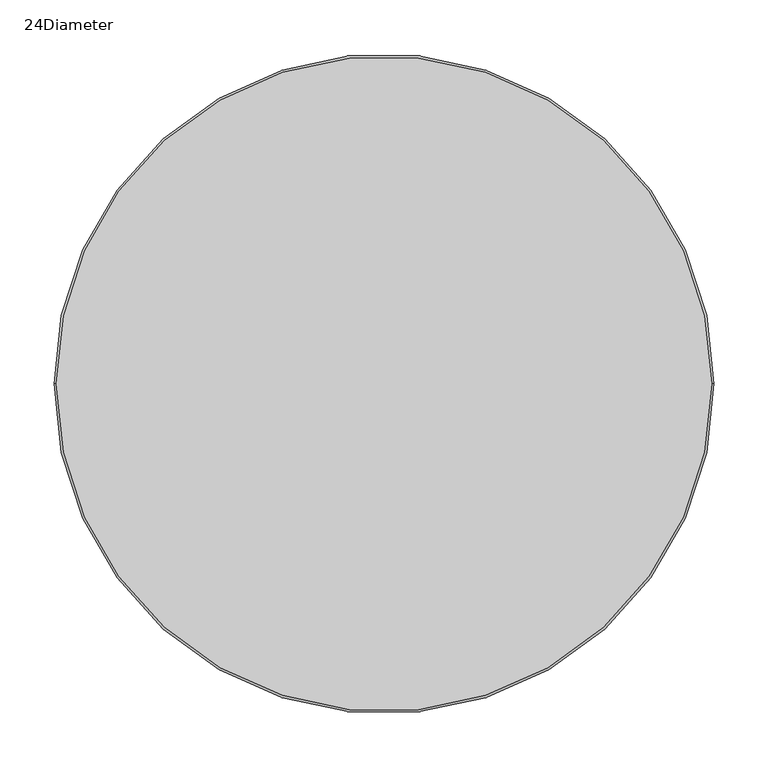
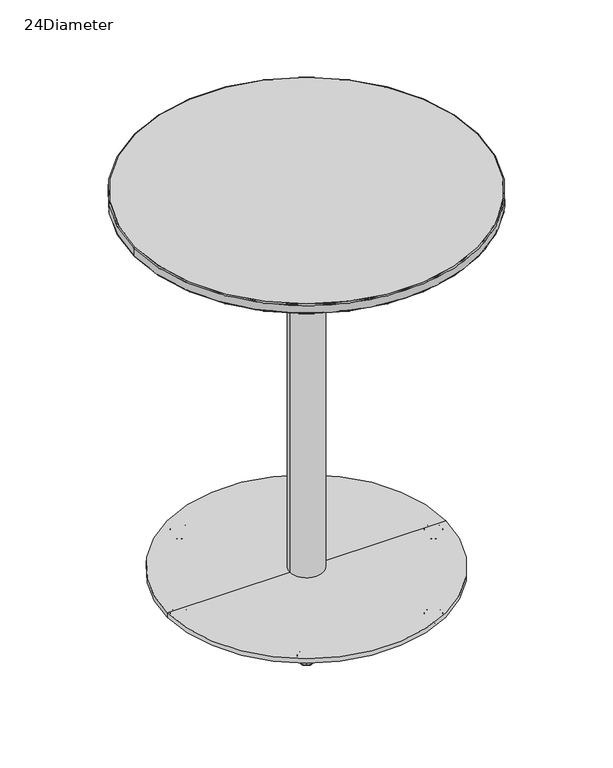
"""IFC4 building model written with IfcOpenShell, lengths in millimetres: furniture geometry, Coalesse_AM_Table_Conference_Montara650_WorkHeight_Round : 24Diameter."""

from ifc_helpers import new_model, si_unit, point, frame, origin, origin_with_axes, origin_2d, place, context, project, spatial, polyline, circle_curve, ellipse_curve, trimmed, segment, composite_curve, outline, extrude, source, transform, mapped, element, save
from ifc_brep_helpers import plane_surface, cylinder_surface, revolved_surface, advanced_brep


def furniture_24diameter_648c9b66(model_context):
    return source(origin(), model_context, "Body", "SolidModel", [
        advanced_brep(
        [(-112.4946772, 194.8464965, 0.0), (-117.6867095, 203.8393602, 0.0), (-107.302645, 185.8536329, 0.0), (-118.0731448, 204.5086859, 0.5718943), (-106.9162096, 185.1843072, 0.5718943), (-119.6988534, 207.3244957, 11.2068005), (-105.290501, 182.3684973, 11.2068005), (-119.4053894, 206.8162011, 11.9999882), (-105.5839651, 182.8767919, 11.9999882), (-112.4946772, 194.8464965, 11.9999882)],
        [
            (0, 1),
            (1, 2, circle_curve(frame((-112.4946772, 194.8464965, 0.0), z_axis=(0.0, 0.0, -1.0), x_axis=(-0.5000000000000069, 0.8660254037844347, 0.0)), 10.3840645)),
            (2, 0),
            (2, 1, circle_curve(frame((-112.4946772, 194.8464965, 0.0), z_axis=(0.0, 0.0, -1.0), x_axis=(-0.5000000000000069, 0.8660254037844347, 0.0)), 10.3840645)),
            (1, 3, circle_curve(frame((-117.6867095, 203.8393602, 0.8081846), z_axis=(0.8660254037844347, 0.5000000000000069, 0.0), x_axis=(-0.5000000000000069, 0.8660254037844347, 0.0)), 0.8081846)),
            (3, 4, circle_curve(frame((-112.4946772, 194.8464965, 0.5718943), z_axis=(0.0, 0.0, -1.0), x_axis=(-0.5000000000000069, 0.8660254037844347, 0.0)), 11.1569353)),
            (4, 2, circle_curve(frame((-107.302645, 185.8536329, 0.8081846), z_axis=(0.866025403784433, 0.5000000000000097, 0.0), x_axis=(0.5000000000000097, -0.866025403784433, 0.0)), 0.8081846)),
            (4, 3, circle_curve(frame((-112.4946772, 194.8464965, 0.5718943), z_axis=(0.0, 0.0, -1.0), x_axis=(-0.5000000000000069, 0.8660254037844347, 0.0)), 11.1569353)),
            (3, 5),
            (5, 6, circle_curve(frame((-112.4946772, 194.8464965, 11.2068005), z_axis=(0.0, 0.0, -1.0), x_axis=(-0.5000000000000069, 0.8660254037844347, 0.0)), 14.4083524)),
            (6, 4),
            (6, 5, circle_curve(frame((-112.4946772, 194.8464965, 11.2068005), z_axis=(0.0, 0.0, -1.0), x_axis=(-0.5000000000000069, 0.8660254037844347, 0.0)), 14.4083524)),
            (5, 7, circle_curve(frame((-119.4053894, 206.8162011, 11.3862424), z_axis=(0.8660254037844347, 0.5000000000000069, 0.0), x_axis=(-0.5000000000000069, 0.8660254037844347, 0.0)), 0.6137458)),
            (7, 8, circle_curve(frame((-112.4946772, 194.8464965, 11.9999882), z_axis=(0.0, 0.0, -1.0), x_axis=(-0.5000000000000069, 0.8660254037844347, 0.0)), 13.8214243)),
            (8, 6, circle_curve(frame((-105.5839651, 182.8767919, 11.3862424), z_axis=(0.866025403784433, 0.5000000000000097, 0.0), x_axis=(0.5000000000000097, -0.866025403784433, 0.0)), 0.6137458)),
            (8, 7, circle_curve(frame((-112.4946772, 194.8464965, 11.9999882), z_axis=(0.0, 0.0, -1.0), x_axis=(-0.5000000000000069, 0.8660254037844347, 0.0)), 13.8214243)),
            (7, 9),
            (9, 8),
        ],
        [
            plane_surface(frame((-112.4946772, 194.8464965, 0.0), z_axis=(0.0, 0.0, -1.0), x_axis=(-0.5000000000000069, 0.8660254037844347, 0.0))),
            revolved_surface(trimmed(ellipse_curve(frame((-117.6867095, 203.8393602, 0.8081846), z_axis=(-0.8660254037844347, -0.5000000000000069, 0.0), x_axis=(-0.5000000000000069, 0.8660254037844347, 0.0)), 0.8081846, 0.8081846), [point((-118.0731448, 204.5086859, 0.5718943))], [point((-117.6867095, 203.8393602, 0.0))], True, "CARTESIAN"), (-112.4946772, 194.8464965, 12.2086845), (0.0, 0.0, -1.0)),
            revolved_surface(polyline([(-119.6988534, 207.3244957, 11.2068005), (-118.0731448, 204.5086859, 0.5718943)]), (-112.4946772, 194.8464965, 12.2086845), (0.0, 0.0, -1.0)),
            revolved_surface(trimmed(ellipse_curve(frame((-119.4053894, 206.8162011, 11.3862424), z_axis=(-0.8660254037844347, -0.5000000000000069, 0.0), x_axis=(-0.5000000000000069, 0.8660254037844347, 0.0)), 0.6137458, 0.6137458), [point((-119.4053894, 206.8162011, 11.9999882))], [point((-119.6988534, 207.3244957, 11.2068005))], True, "CARTESIAN"), (-112.4946772, 194.8464965, 12.2086845), (0.0, 0.0, -1.0)),
            plane_surface(frame((-112.4946772, 194.8464965, 11.9999882), z_axis=(0.0, 0.0, 1.0), x_axis=(-0.5000000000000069, 0.8660254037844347, 0.0))),
        ],
        [
            (0, [[1, 2, 3]]),
            (0, [[-3, 4, -1]]),
            (1, [[-2, 5, 6, 7]]),
            (1, [[-4, -7, 8, -5]]),
            (2, [[-6, 9, 10, 11]]),
            (2, [[-8, -11, 12, -9]]),
            (3, [[-10, 13, 14, 15]]),
            (3, [[-12, -15, 16, -13]]),
            (4, [[-14, 17, 18]]),
            (4, [[-16, -18, -17]]),
        ],
    ),
        advanced_brep(
        [(107.302645, -185.8536329, 0.0), (117.6867095, -203.8393602, 0.0), (112.4946772, -194.8464965, 0.0), (106.9162096, -185.1843072, 0.5718943), (118.0731448, -204.5086859, 0.5718943), (105.290501, -182.3684973, 11.2068005), (119.6988534, -207.3244957, 11.2068005), (105.5839651, -182.8767919, 11.9999882), (119.4053894, -206.8162011, 11.9999882), (112.4946772, -194.8464965, 11.9999882)],
        [
            (0, 1, circle_curve(frame((112.4946772, -194.8464965, 0.0), z_axis=(0.0, 0.0, -1.0), x_axis=(0.5000000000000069, -0.8660254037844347, 0.0)), 10.3840645)),
            (1, 2),
            (2, 0),
            (1, 0, circle_curve(frame((112.4946772, -194.8464965, 0.0), z_axis=(0.0, 0.0, -1.0), x_axis=(0.5000000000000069, -0.8660254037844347, 0.0)), 10.3840645)),
            (3, 4, circle_curve(frame((112.4946772, -194.8464965, 0.5718943), z_axis=(0.0, 0.0, -1.0), x_axis=(0.5000000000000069, -0.8660254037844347, 0.0)), 11.1569353)),
            (4, 1, circle_curve(frame((117.6867095, -203.8393602, 0.8081846), z_axis=(0.8660254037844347, 0.5000000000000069, 0.0), x_axis=(0.5000000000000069, -0.8660254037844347, 0.0)), 0.8081846)),
            (0, 3, circle_curve(frame((107.302645, -185.8536329, 0.8081846), z_axis=(0.8660254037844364, 0.5000000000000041, 0.0), x_axis=(-0.5000000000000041, 0.8660254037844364, 0.0)), 0.8081846)),
            (4, 3, circle_curve(frame((112.4946772, -194.8464965, 0.5718943), z_axis=(0.0, 0.0, -1.0), x_axis=(0.5000000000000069, -0.8660254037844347, 0.0)), 11.1569353)),
            (5, 6, circle_curve(frame((112.4946772, -194.8464965, 11.2068005), z_axis=(0.0, 0.0, -1.0), x_axis=(0.5000000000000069, -0.8660254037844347, 0.0)), 14.4083524)),
            (6, 4),
            (3, 5),
            (6, 5, circle_curve(frame((112.4946772, -194.8464965, 11.2068005), z_axis=(0.0, 0.0, -1.0), x_axis=(0.5000000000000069, -0.8660254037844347, 0.0)), 14.4083524)),
            (7, 8, circle_curve(frame((112.4946772, -194.8464965, 11.9999882), z_axis=(0.0, 0.0, -1.0), x_axis=(0.5000000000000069, -0.8660254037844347, 0.0)), 13.8214243)),
            (8, 6, circle_curve(frame((119.4053894, -206.8162011, 11.3862424), z_axis=(0.8660254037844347, 0.5000000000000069, 0.0), x_axis=(0.5000000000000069, -0.8660254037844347, 0.0)), 0.6137458)),
            (5, 7, circle_curve(frame((105.5839651, -182.8767919, 11.3862424), z_axis=(0.8660254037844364, 0.5000000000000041, 0.0), x_axis=(-0.5000000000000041, 0.8660254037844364, 0.0)), 0.6137458)),
            (8, 7, circle_curve(frame((112.4946772, -194.8464965, 11.9999882), z_axis=(0.0, 0.0, -1.0), x_axis=(0.5000000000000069, -0.8660254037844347, 0.0)), 13.8214243)),
            (9, 8),
            (7, 9),
        ],
        [
            plane_surface(frame((112.4946772, -194.8464965, 0.0), z_axis=(0.0, 0.0, -1.0), x_axis=(0.5000000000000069, -0.8660254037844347, 0.0))),
            revolved_surface(trimmed(ellipse_curve(frame((117.6867095, -203.8393602, 0.8081846), z_axis=(-0.8660254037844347, -0.5000000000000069, 0.0), x_axis=(0.5000000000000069, -0.8660254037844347, 0.0)), 0.8081846, 0.8081846), [point((117.6867095, -203.8393602, 0.0))], [point((118.0731448, -204.5086859, 0.5718943))], True, "CARTESIAN"), (112.4946772, -194.8464965, 12.2086845), (0.0, 0.0, 1.0)),
            revolved_surface(polyline([(118.0731448, -204.5086859, 0.5718943), (119.6988534, -207.3244957, 11.2068005)]), (112.4946772, -194.8464965, 12.2086845), (0.0, 0.0, 1.0)),
            revolved_surface(trimmed(ellipse_curve(frame((119.4053894, -206.8162011, 11.3862424), z_axis=(-0.8660254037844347, -0.5000000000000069, 0.0), x_axis=(0.5000000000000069, -0.8660254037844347, 0.0)), 0.6137458, 0.6137458), [point((119.6988534, -207.3244957, 11.2068005))], [point((119.4053894, -206.8162011, 11.9999882))], True, "CARTESIAN"), (112.4946772, -194.8464965, 12.2086845), (0.0, 0.0, 1.0)),
            plane_surface(frame((112.4946772, -194.8464965, 11.9999882), z_axis=(0.0, 0.0, 1.0), x_axis=(0.5000000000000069, -0.8660254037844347, 0.0))),
        ],
        [
            (0, [[1, 2, 3]]),
            (0, [[4, -3, -2]]),
            (1, [[5, 6, -1, 7]]),
            (1, [[8, -7, -4, -6]]),
            (2, [[9, 10, -5, 11]]),
            (2, [[12, -11, -8, -10]]),
            (3, [[13, 14, -9, 15]]),
            (3, [[16, -15, -12, -14]]),
            (4, [[17, -13, 18]]),
            (4, [[-18, -16, -17]]),
        ],
    ),
        advanced_brep(
        [(107.302645, 185.8536329, 0.0), (117.6867095, 203.8393602, 0.0), (112.4946772, 194.8464965, 0.0), (106.9162096, 185.1843072, 0.5718943), (118.0731448, 204.5086859, 0.5718943), (105.290501, 182.3684973, 11.2068005), (119.6988534, 207.3244957, 11.2068005), (105.5839651, 182.8767919, 11.9999882), (119.4053894, 206.8162011, 11.9999882), (112.4946772, 194.8464965, 11.9999882)],
        [
            (0, 1, circle_curve(frame((112.4946772, 194.8464965, 0.0), z_axis=(0.0, 0.0, -1.0), x_axis=(0.5000000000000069, 0.8660254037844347, 0.0)), 10.3840645)),
            (1, 2),
            (2, 0),
            (1, 0, circle_curve(frame((112.4946772, 194.8464965, 0.0), z_axis=(0.0, 0.0, -1.0), x_axis=(0.5000000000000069, 0.8660254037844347, 0.0)), 10.3840645)),
            (3, 4, circle_curve(frame((112.4946772, 194.8464965, 0.5718943), z_axis=(0.0, 0.0, -1.0), x_axis=(0.5000000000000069, 0.8660254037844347, 0.0)), 11.1569353)),
            (4, 1, circle_curve(frame((117.6867095, 203.8393602, 0.8081846), z_axis=(-0.8660254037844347, 0.5000000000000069, 0.0), x_axis=(0.5000000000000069, 0.8660254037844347, 0.0)), 0.8081846)),
            (0, 3, circle_curve(frame((107.302645, 185.8536329, 0.8081846), z_axis=(-0.866025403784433, 0.5000000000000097, 0.0), x_axis=(-0.5000000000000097, -0.866025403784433, 0.0)), 0.8081846)),
            (4, 3, circle_curve(frame((112.4946772, 194.8464965, 0.5718943), z_axis=(0.0, 0.0, -1.0), x_axis=(0.5000000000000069, 0.8660254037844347, 0.0)), 11.1569353)),
            (5, 6, circle_curve(frame((112.4946772, 194.8464965, 11.2068005), z_axis=(0.0, 0.0, -1.0), x_axis=(0.5000000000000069, 0.8660254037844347, 0.0)), 14.4083524)),
            (6, 4),
            (3, 5),
            (6, 5, circle_curve(frame((112.4946772, 194.8464965, 11.2068005), z_axis=(0.0, 0.0, -1.0), x_axis=(0.5000000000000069, 0.8660254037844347, 0.0)), 14.4083524)),
            (7, 8, circle_curve(frame((112.4946772, 194.8464965, 11.9999882), z_axis=(0.0, 0.0, -1.0), x_axis=(0.5000000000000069, 0.8660254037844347, 0.0)), 13.8214243)),
            (8, 6, circle_curve(frame((119.4053894, 206.8162011, 11.3862424), z_axis=(-0.8660254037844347, 0.5000000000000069, 0.0), x_axis=(0.5000000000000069, 0.8660254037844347, 0.0)), 0.6137458)),
            (5, 7, circle_curve(frame((105.5839651, 182.8767919, 11.3862424), z_axis=(-0.866025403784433, 0.5000000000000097, 0.0), x_axis=(-0.5000000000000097, -0.866025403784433, 0.0)), 0.6137458)),
            (8, 7, circle_curve(frame((112.4946772, 194.8464965, 11.9999882), z_axis=(0.0, 0.0, -1.0), x_axis=(0.5000000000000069, 0.8660254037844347, 0.0)), 13.8214243)),
            (9, 8),
            (7, 9),
        ],
        [
            plane_surface(frame((112.4946772, 194.8464965, 0.0), z_axis=(0.0, 0.0, -1.0), x_axis=(0.5000000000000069, 0.8660254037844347, 0.0))),
            revolved_surface(trimmed(ellipse_curve(frame((117.6867095, 203.8393602, 0.8081846), z_axis=(0.8660254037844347, -0.5000000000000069, 0.0), x_axis=(0.5000000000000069, 0.8660254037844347, 0.0)), 0.8081846, 0.8081846), [point((117.6867095, 203.8393602, 0.0))], [point((118.0731448, 204.5086859, 0.5718943))], True, "CARTESIAN"), (112.4946772, 194.8464965, 12.2086845), (0.0, 0.0, 1.0)),
            revolved_surface(polyline([(118.0731448, 204.5086859, 0.5718943), (119.6988534, 207.3244957, 11.2068005)]), (112.4946772, 194.8464965, 12.2086845), (0.0, 0.0, 1.0)),
            revolved_surface(trimmed(ellipse_curve(frame((119.4053894, 206.8162011, 11.3862424), z_axis=(0.8660254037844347, -0.5000000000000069, 0.0), x_axis=(0.5000000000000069, 0.8660254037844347, 0.0)), 0.6137458, 0.6137458), [point((119.6988534, 207.3244957, 11.2068005))], [point((119.4053894, 206.8162011, 11.9999882))], True, "CARTESIAN"), (112.4946772, 194.8464965, 12.2086845), (0.0, 0.0, 1.0)),
            plane_surface(frame((112.4946772, 194.8464965, 11.9999882), z_axis=(0.0, 0.0, 1.0), x_axis=(0.5000000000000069, 0.8660254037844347, 0.0))),
        ],
        [
            (0, [[1, 2, 3]]),
            (0, [[4, -3, -2]]),
            (1, [[5, 6, -1, 7]]),
            (1, [[8, -7, -4, -6]]),
            (2, [[9, 10, -5, 11]]),
            (2, [[12, -11, -8, -10]]),
            (3, [[13, 14, -9, 15]]),
            (3, [[16, -15, -12, -14]]),
            (4, [[17, -13, 18]]),
            (4, [[-18, -16, -17]]),
        ],
    ),
        advanced_brep(
        [(-112.4946772, -194.8464965, 0.0), (-117.6867095, -203.8393602, 0.0), (-107.302645, -185.8536329, 0.0), (-118.0731448, -204.5086859, 0.5718943), (-106.9162096, -185.1843072, 0.5718943), (-119.6988534, -207.3244957, 11.2068005), (-105.290501, -182.3684973, 11.2068005), (-119.4053894, -206.8162011, 11.9999882), (-105.5839651, -182.8767919, 11.9999882), (-112.4946772, -194.8464965, 11.9999882)],
        [
            (0, 1),
            (1, 2, circle_curve(frame((-112.4946772, -194.8464965, 0.0), z_axis=(0.0, 0.0, -1.0), x_axis=(-0.5000000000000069, -0.8660254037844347, 0.0)), 10.3840645)),
            (2, 0),
            (2, 1, circle_curve(frame((-112.4946772, -194.8464965, 0.0), z_axis=(0.0, 0.0, -1.0), x_axis=(-0.5000000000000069, -0.8660254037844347, 0.0)), 10.3840645)),
            (1, 3, circle_curve(frame((-117.6867095, -203.8393602, 0.8081846), z_axis=(-0.8660254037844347, 0.5000000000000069, 0.0), x_axis=(-0.5000000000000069, -0.8660254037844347, 0.0)), 0.8081846)),
            (3, 4, circle_curve(frame((-112.4946772, -194.8464965, 0.5718943), z_axis=(0.0, 0.0, -1.0), x_axis=(-0.5000000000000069, -0.8660254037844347, 0.0)), 11.1569353)),
            (4, 2, circle_curve(frame((-107.302645, -185.8536329, 0.8081846), z_axis=(-0.8660254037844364, 0.5000000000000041, 0.0), x_axis=(0.5000000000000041, 0.8660254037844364, 0.0)), 0.8081846)),
            (4, 3, circle_curve(frame((-112.4946772, -194.8464965, 0.5718943), z_axis=(0.0, 0.0, -1.0), x_axis=(-0.5000000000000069, -0.8660254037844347, 0.0)), 11.1569353)),
            (3, 5),
            (5, 6, circle_curve(frame((-112.4946772, -194.8464965, 11.2068005), z_axis=(0.0, 0.0, -1.0), x_axis=(-0.5000000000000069, -0.8660254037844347, 0.0)), 14.4083524)),
            (6, 4),
            (6, 5, circle_curve(frame((-112.4946772, -194.8464965, 11.2068005), z_axis=(0.0, 0.0, -1.0), x_axis=(-0.5000000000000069, -0.8660254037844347, 0.0)), 14.4083524)),
            (5, 7, circle_curve(frame((-119.4053894, -206.8162011, 11.3862424), z_axis=(-0.8660254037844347, 0.5000000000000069, 0.0), x_axis=(-0.5000000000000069, -0.8660254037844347, 0.0)), 0.6137458)),
            (7, 8, circle_curve(frame((-112.4946772, -194.8464965, 11.9999882), z_axis=(0.0, 0.0, -1.0), x_axis=(-0.5000000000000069, -0.8660254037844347, 0.0)), 13.8214243)),
            (8, 6, circle_curve(frame((-105.5839651, -182.8767919, 11.3862424), z_axis=(-0.8660254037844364, 0.5000000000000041, 0.0), x_axis=(0.5000000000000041, 0.8660254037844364, 0.0)), 0.6137458)),
            (8, 7, circle_curve(frame((-112.4946772, -194.8464965, 11.9999882), z_axis=(0.0, 0.0, -1.0), x_axis=(-0.5000000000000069, -0.8660254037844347, 0.0)), 13.8214243)),
            (7, 9),
            (9, 8),
        ],
        [
            plane_surface(frame((-112.4946772, -194.8464965, 0.0), z_axis=(0.0, 0.0, -1.0), x_axis=(-0.5000000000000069, -0.8660254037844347, 0.0))),
            revolved_surface(trimmed(ellipse_curve(frame((-117.6867095, -203.8393602, 0.8081846), z_axis=(0.8660254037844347, -0.5000000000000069, 0.0), x_axis=(-0.5000000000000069, -0.8660254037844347, 0.0)), 0.8081846, 0.8081846), [point((-118.0731448, -204.5086859, 0.5718943))], [point((-117.6867095, -203.8393602, 0.0))], True, "CARTESIAN"), (-112.4946772, -194.8464965, 12.2086845), (0.0, 0.0, -1.0)),
            revolved_surface(polyline([(-119.6988534, -207.3244957, 11.2068005), (-118.0731448, -204.5086859, 0.5718943)]), (-112.4946772, -194.8464965, 12.2086845), (0.0, 0.0, -1.0)),
            revolved_surface(trimmed(ellipse_curve(frame((-119.4053894, -206.8162011, 11.3862424), z_axis=(0.8660254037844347, -0.5000000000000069, 0.0), x_axis=(-0.5000000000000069, -0.8660254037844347, 0.0)), 0.6137458, 0.6137458), [point((-119.4053894, -206.8162011, 11.9999882))], [point((-119.6988534, -207.3244957, 11.2068005))], True, "CARTESIAN"), (-112.4946772, -194.8464965, 12.2086845), (0.0, 0.0, -1.0)),
            plane_surface(frame((-112.4946772, -194.8464965, 11.9999882), z_axis=(0.0, 0.0, 1.0), x_axis=(-0.5000000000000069, -0.8660254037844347, 0.0))),
        ],
        [
            (0, [[1, 2, 3]]),
            (0, [[-3, 4, -1]]),
            (1, [[-2, 5, 6, 7]]),
            (1, [[-4, -7, 8, -5]]),
            (2, [[-6, 9, 10, 11]]),
            (2, [[-8, -11, 12, -9]]),
            (3, [[-10, 13, 14, 15]]),
            (3, [[-12, -15, 16, -13]]),
            (4, [[-14, 17, 18]]),
            (4, [[-16, -18, -17]]),
        ],
    ),
        advanced_brep(
        [(214.6052899, 0.0, 0.0), (235.3734189, 0.0, 0.0), (224.9893544, 0.0, 0.0), (213.8324192, 0.0, 0.5718943), (236.1462897, 0.0, 0.5718943), (210.5810021, 0.0, 11.2068005), (239.3977068, 0.0, 11.2068005), (211.1679301, 0.0, 11.9999882), (238.8107788, 0.0, 11.9999882), (224.9893544, 0.0, 11.9999882)],
        [
            (0, 1, circle_curve(frame((224.9893544, 0.0, 0.0), z_axis=(0.0, 0.0, -1.0), x_axis=(1.0, 0.0, 0.0)), 10.3840645)),
            (1, 2),
            (2, 0),
            (1, 0, circle_curve(frame((224.9893544, 0.0, 0.0), z_axis=(0.0, 0.0, -1.0), x_axis=(1.0, 0.0, 0.0)), 10.3840645)),
            (3, 4, circle_curve(frame((224.9893544, 0.0, 0.5718943), z_axis=(0.0, 0.0, -1.0), x_axis=(1.0, 0.0, 0.0)), 11.1569353)),
            (4, 1, circle_curve(frame((235.3734189, 0.0, 0.8081846), z_axis=(0.0, 1.0, 0.0), x_axis=(1.0, 0.0, 0.0)), 0.8081846)),
            (0, 3, circle_curve(frame((214.6052899, 0.0, 0.8081846), z_axis=(0.0, 1.0, 0.0), x_axis=(-1.0, 0.0, 0.0)), 0.8081846)),
            (4, 3, circle_curve(frame((224.9893544, 0.0, 0.5718943), z_axis=(0.0, 0.0, -1.0), x_axis=(1.0, 0.0, 0.0)), 11.1569353)),
            (5, 6, circle_curve(frame((224.9893544, 0.0, 11.2068005), z_axis=(0.0, 0.0, -1.0), x_axis=(1.0, 0.0, 0.0)), 14.4083524)),
            (6, 4),
            (3, 5),
            (6, 5, circle_curve(frame((224.9893544, 0.0, 11.2068005), z_axis=(0.0, 0.0, -1.0), x_axis=(1.0, 0.0, 0.0)), 14.4083524)),
            (7, 8, circle_curve(frame((224.9893544, 0.0, 11.9999882), z_axis=(0.0, 0.0, -1.0), x_axis=(1.0, 0.0, 0.0)), 13.8214243)),
            (8, 6, circle_curve(frame((238.8107788, 0.0, 11.3862424), z_axis=(0.0, 1.0, 0.0), x_axis=(1.0, 0.0, 0.0)), 0.6137458)),
            (5, 7, circle_curve(frame((211.1679301, 0.0, 11.3862424), z_axis=(0.0, 1.0, 0.0), x_axis=(-1.0, 0.0, 0.0)), 0.6137458)),
            (8, 7, circle_curve(frame((224.9893544, 0.0, 11.9999882), z_axis=(0.0, 0.0, -1.0), x_axis=(1.0, 0.0, 0.0)), 13.8214243)),
            (9, 8),
            (7, 9),
        ],
        [
            plane_surface(frame((224.9893544, 0.0, 0.0), z_axis=(0.0, 0.0, -1.0), x_axis=(1.0, 0.0, 0.0))),
            revolved_surface(trimmed(ellipse_curve(frame((235.3734189, 0.0, 0.8081846), z_axis=(0.0, -1.0, 0.0), x_axis=(1.0, 0.0, 0.0)), 0.8081846, 0.8081846), [point((235.3734189, 0.0, 0.0))], [point((236.1462897, 0.0, 0.5718943))], True, "CARTESIAN"), (224.9893544, 0.0, 12.2086845), (0.0, 0.0, 1.0)),
            revolved_surface(polyline([(236.1462897, 0.0, 0.5718943), (239.3977068, 0.0, 11.2068005)]), (224.9893544, 0.0, 12.2086845), (0.0, 0.0, 1.0)),
            revolved_surface(trimmed(ellipse_curve(frame((238.8107788, 0.0, 11.3862424), z_axis=(0.0, -1.0, 0.0), x_axis=(1.0, 0.0, 0.0)), 0.6137458, 0.6137458), [point((239.3977068, 0.0, 11.2068005))], [point((238.8107788, 0.0, 11.9999882))], True, "CARTESIAN"), (224.9893544, 0.0, 12.2086845), (0.0, 0.0, 1.0)),
            plane_surface(frame((224.9893544, 0.0, 11.9999882), z_axis=(0.0, 0.0, 1.0), x_axis=(1.0, 0.0, 0.0))),
        ],
        [
            (0, [[1, 2, 3]]),
            (0, [[4, -3, -2]]),
            (1, [[5, 6, -1, 7]]),
            (1, [[8, -7, -4, -6]]),
            (2, [[9, 10, -5, 11]]),
            (2, [[12, -11, -8, -10]]),
            (3, [[13, 14, -9, 15]]),
            (3, [[16, -15, -12, -14]]),
            (4, [[17, -13, 18]]),
            (4, [[-18, -16, -17]]),
        ],
    ),
        advanced_brep(
        [(-258.064, 0.0, 693.930027), (258.064, 0.0, 693.930027), (-302.768, 0.0, 706.195891), (302.768, 0.0, 706.195891)],
        [
            (0, 1, circle_curve(frame((0.0, 0.0, 693.930027), z_axis=(0.0, 0.0, -1.0), x_axis=(-1.0, 0.0, 0.0)), 258.064)),
            (1, 0, circle_curve(frame((0.0, 0.0, 693.930027), z_axis=(0.0, 0.0, -1.0), x_axis=(1.0, 0.0, 0.0)), 258.064)),
            (2, 3, circle_curve(frame((0.0, 0.0, 706.195891), z_axis=(0.0, 0.0, 1.0), x_axis=(1.0, 0.0, 0.0)), 302.768)),
            (3, 2, circle_curve(frame((0.0, 0.0, 706.195891), z_axis=(0.0, 0.0, 1.0), x_axis=(-1.0, 0.0, 0.0)), 302.768)),
            (2, 0),
            (1, 3),
        ],
        [
            plane_surface(frame((0.0, 0.0, 693.930027), z_axis=(0.0, 0.0, -1.0), x_axis=(0.0, -1.0, 0.0))),
            plane_surface(frame((0.0, 0.0, 706.195891), z_axis=(0.0, 0.0, 1.0), x_axis=(0.0, -1.0, 0.0))),
            revolved_surface(polyline([(258.0639998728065, 0.0, 693.930027), (302.768, 0.0, 706.195891)]), (0.0, 0.0, 623.1225396), (0.0, 0.0, 1.0)),
            revolved_surface(polyline([(-258.0639998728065, 0.0, 693.930027), (-302.768, 0.0, 706.195891)]), (0.0, 0.0, 623.1225396), (0.0, 0.0, 1.0)),
        ],
        [
            (0, [[1, 2]]),
            (1, [[3, 4]]),
            (2, [[-3, 5, -2, 6]]),
            (3, [[-4, -6, -1, -5]]),
        ],
    ),
        extrude(outline(composite_curve([segment(trimmed(circle_curve(origin_2d(), 302.768), [point((-302.768, 0.0))], [point((302.768, 0.0))], False, "CARTESIAN"), True, "CONTINUOUS"), segment(trimmed(circle_curve(origin_2d(), 302.768), [point((302.768, 0.0))], [point((-302.768, 0.0))], False, "CARTESIAN"), True, "CONTINUOUS")], self_intersect=False)), frame((0.0, 0.0, 706.195891), z_axis=(0.0, 0.0, 1.0), x_axis=(1.0, 0.0, 0.0)), (0.0, 0.0, 1.0), 17.704109),
        advanced_brep(
        [(-224.9893544, 0.0, 0.0), (-235.3734189, 0.0, 0.0), (-214.6052899, 0.0, 0.0), (-236.1462897, 0.0, 0.5718943), (-213.8324192, 0.0, 0.5718943), (-239.3977068, 0.0, 11.2068005), (-210.5810021, 0.0, 11.2068005), (-238.8107788, 0.0, 11.9999882), (-211.1679301, 0.0, 11.9999882), (-224.9893544, 0.0, 11.9999882)],
        [
            (0, 1),
            (1, 2, circle_curve(frame((-224.9893544, 0.0, 0.0), z_axis=(0.0, 0.0, -1.0), x_axis=(-1.0, 0.0, 0.0)), 10.3840645)),
            (2, 0),
            (2, 1, circle_curve(frame((-224.9893544, 0.0, 0.0), z_axis=(0.0, 0.0, -1.0), x_axis=(-1.0, 0.0, 0.0)), 10.3840645)),
            (1, 3, circle_curve(frame((-235.3734189, 0.0, 0.8081846), z_axis=(0.0, 1.0, 0.0), x_axis=(-1.0, 0.0, 0.0)), 0.8081846)),
            (3, 4, circle_curve(frame((-224.9893544, 0.0, 0.5718943), z_axis=(0.0, 0.0, -1.0), x_axis=(-1.0, 0.0, 0.0)), 11.1569353)),
            (4, 2, circle_curve(frame((-214.6052899, 0.0, 0.8081846), z_axis=(0.0, 1.0, 0.0), x_axis=(1.0, 0.0, 0.0)), 0.8081846)),
            (4, 3, circle_curve(frame((-224.9893544, 0.0, 0.5718943), z_axis=(0.0, 0.0, -1.0), x_axis=(-1.0, 0.0, 0.0)), 11.1569353)),
            (3, 5),
            (5, 6, circle_curve(frame((-224.9893544, 0.0, 11.2068005), z_axis=(0.0, 0.0, -1.0), x_axis=(-1.0, 0.0, 0.0)), 14.4083524)),
            (6, 4),
            (6, 5, circle_curve(frame((-224.9893544, 0.0, 11.2068005), z_axis=(0.0, 0.0, -1.0), x_axis=(-1.0, 0.0, 0.0)), 14.4083524)),
            (5, 7, circle_curve(frame((-238.8107788, 0.0, 11.3862424), z_axis=(0.0, 1.0, 0.0), x_axis=(-1.0, 0.0, 0.0)), 0.6137458)),
            (7, 8, circle_curve(frame((-224.9893544, 0.0, 11.9999882), z_axis=(0.0, 0.0, -1.0), x_axis=(-1.0, 0.0, 0.0)), 13.8214243)),
            (8, 6, circle_curve(frame((-211.1679301, 0.0, 11.3862424), z_axis=(0.0, 1.0, 0.0), x_axis=(1.0, 0.0, 0.0)), 0.6137458)),
            (8, 7, circle_curve(frame((-224.9893544, 0.0, 11.9999882), z_axis=(0.0, 0.0, -1.0), x_axis=(-1.0, 0.0, 0.0)), 13.8214243)),
            (7, 9),
            (9, 8),
        ],
        [
            plane_surface(frame((-224.9893544, 0.0, 0.0), z_axis=(0.0, 0.0, -1.0), x_axis=(-1.0, 0.0, 0.0))),
            revolved_surface(trimmed(ellipse_curve(frame((-235.3734189, 0.0, 0.8081846), z_axis=(0.0, -1.0, 0.0), x_axis=(-1.0, 0.0, 0.0)), 0.8081846, 0.8081846), [point((-236.1462897, 0.0, 0.5718943))], [point((-235.3734189, 0.0, 0.0))], True, "CARTESIAN"), (-224.9893544, 0.0, 12.2086845), (0.0, 0.0, -1.0)),
            revolved_surface(polyline([(-239.3977068, 0.0, 11.2068005), (-236.1462897, 0.0, 0.5718943)]), (-224.9893544, 0.0, 12.2086845), (0.0, 0.0, -1.0)),
            revolved_surface(trimmed(ellipse_curve(frame((-238.8107788, 0.0, 11.3862424), z_axis=(0.0, -1.0, 0.0), x_axis=(-1.0, 0.0, 0.0)), 0.6137458, 0.6137458), [point((-238.8107788, 0.0, 11.9999882))], [point((-239.3977068, 0.0, 11.2068005))], True, "CARTESIAN"), (-224.9893544, 0.0, 12.2086845), (0.0, 0.0, -1.0)),
            plane_surface(frame((-224.9893544, 0.0, 11.9999882), z_axis=(0.0, 0.0, 1.0), x_axis=(-1.0, 0.0, 0.0))),
        ],
        [
            (0, [[1, 2, 3]]),
            (0, [[-3, 4, -1]]),
            (1, [[-2, 5, 6, 7]]),
            (1, [[-4, -7, 8, -5]]),
            (2, [[-6, 9, 10, 11]]),
            (2, [[-8, -11, 12, -9]]),
            (3, [[-10, 13, 14, 15]]),
            (3, [[-12, -15, 16, -13]]),
            (4, [[-14, 17, 18]]),
            (4, [[-16, -18, -17]]),
        ],
    ),
        advanced_brep(
        [(304.8438665, 0.0, 708.1278467), (-304.8438665, 0.0, 708.1278467), (-302.768, 0.0, 706.195891), (302.768, 0.0, 706.195891), (304.8438665, 0.0, 721.8999283), (-304.8438665, 0.0, 721.8999283), (302.768, 0.0, 723.9), (-302.768, 0.0, 723.9)],
        [
            (0, 1, circle_curve(frame((0.0, 0.0, 708.1278467), z_axis=(0.0, 0.0, -1.0), x_axis=(-1.0, 0.0, 0.0)), 304.8438665)),
            (1, 2, circle_curve(frame((-302.9069224, 0.0, 708.1278467), z_axis=(0.0, -1.0, 0.0), x_axis=(1.0, 0.0, 0.0)), 1.9369441)),
            (2, 3, circle_curve(frame((0.0, 0.0, 706.195891), z_axis=(0.0, 0.0, 1.0), x_axis=(-1.0, 0.0, 0.0)), 302.768)),
            (3, 0, circle_curve(frame((302.9069224, 0.0, 708.1278467), z_axis=(0.0, -1.0, 0.0), x_axis=(-1.0, 0.0, 0.0)), 1.9369441)),
            (4, 5, circle_curve(frame((0.0, 0.0, 721.8999283), z_axis=(0.0, 0.0, -1.0), x_axis=(-1.0, 0.0, 0.0)), 304.8438665)),
            (5, 1),
            (0, 4),
            (6, 7, circle_curve(frame((0.0, 0.0, 723.9), z_axis=(0.0, 0.0, -1.0), x_axis=(-1.0, 0.0, 0.0)), 302.768)),
            (7, 5, circle_curve(frame((-302.8424111, 0.0, 721.8999283), z_axis=(0.0, -1.0, 0.0), x_axis=(1.0, 0.0, 0.0)), 2.0014554)),
            (4, 6, circle_curve(frame((302.8424111, 0.0, 721.8999283), z_axis=(0.0, -1.0, 0.0), x_axis=(-1.0, 0.0, 0.0)), 2.0014554)),
            (2, 7),
            (6, 3),
            (1, 0, circle_curve(frame((0.0, 0.0, 708.1278467), z_axis=(0.0, 0.0, -1.0), x_axis=(1.0, 0.0, 0.0)), 304.8438665)),
            (3, 2, circle_curve(frame((0.0, 0.0, 706.195891), z_axis=(0.0, 0.0, 1.0), x_axis=(1.0, 0.0, 0.0)), 302.768)),
            (5, 4, circle_curve(frame((0.0, 0.0, 721.8999283), z_axis=(0.0, 0.0, -1.0), x_axis=(1.0, 0.0, 0.0)), 304.8438665)),
            (7, 6, circle_curve(frame((0.0, 0.0, 723.9), z_axis=(0.0, 0.0, -1.0), x_axis=(1.0, 0.0, 0.0)), 302.768)),
        ],
        [
            revolved_surface(trimmed(ellipse_curve(frame((-302.9069224, 0.0, 708.1278467), z_axis=(0.0, 1.0, 0.0), x_axis=(1.0, 0.0, 0.0)), 1.9369441, 1.9369441), [point((-302.768, 0.0, 706.195891))], [point((-304.8438665, 0.0, 708.1278467))], True, "CARTESIAN"), (0.0, 0.0, 0.0), (0.0, 0.0, 1.0)),
            cylinder_surface(frame((0.0, 0.0, 0.0), z_axis=(0.0, 0.0, 1.0), x_axis=(-1.0, 0.0, 0.0)), 304.8438665),
            revolved_surface(trimmed(ellipse_curve(frame((-302.8424111, 0.0, 721.8999283), z_axis=(0.0, 1.0, 0.0), x_axis=(1.0, 0.0, 0.0)), 2.0014554, 2.0014554), [point((-304.8438665, 0.0, 721.8999283))], [point((-302.768, 0.0, 723.9))], True, "CARTESIAN"), (0.0, 0.0, 0.0), (0.0, 0.0, 1.0)),
            revolved_surface(polyline([(-302.768, 0.0, 723.9), (-302.768, 0.0, 706.195891)]), (0.0, 0.0, 0.0), (0.0, 0.0, 1.0)),
            revolved_surface(trimmed(ellipse_curve(frame((302.9069224, 0.0, 708.1278467), z_axis=(0.0, -1.0, 0.0), x_axis=(-1.0, 0.0, 0.0)), 1.9369441, 1.9369441), [point((302.768, 0.0, 706.195891))], [point((304.8438665, 0.0, 708.1278467))], True, "CARTESIAN"), (0.0, 0.0, 0.0), (0.0, 0.0, 1.0)),
            cylinder_surface(origin_with_axes(), 304.8438665),
            revolved_surface(trimmed(ellipse_curve(frame((302.8424111, 0.0, 721.8999283), z_axis=(0.0, -1.0, 0.0), x_axis=(-1.0, 0.0, 0.0)), 2.0014554, 2.0014554), [point((304.8438665, 0.0, 721.8999283))], [point((302.768, 0.0, 723.9))], True, "CARTESIAN"), (0.0, 0.0, 0.0), (0.0, 0.0, 1.0)),
            revolved_surface(polyline([(302.768, 0.0, 723.9), (302.768, 0.0, 706.195891)]), (0.0, 0.0, 0.0), (0.0, 0.0, 1.0)),
        ],
        [
            (0, [[1, 2, 3, 4]]),
            (1, [[5, 6, -1, 7]]),
            (2, [[8, 9, -5, 10]]),
            (3, [[-3, 11, -8, 12]]),
            (4, [[13, -4, 14, -2]]),
            (5, [[15, -7, -13, -6]]),
            (6, [[16, -10, -15, -9]]),
            (7, [[-14, -12, -16, -11]]),
        ],
    ),
        advanced_brep(
        [(131.6004101, 0.0, 690.755027), (-131.6004101, 0.0, 690.755027), (-176.1626132, 0.0, 690.755027), (176.1626132, 0.0, 690.755027), (121.0488662, 0.0, 689.6460151), (-121.0488662, 0.0, 689.6460151), (48.7461809, 0.0, 674.9837029), (-48.7461809, 0.0, 674.9837029), (37.412985, 0.0, 674.9837029), (-37.412985, 0.0, 674.9837029), (29.5495828, 0.0, 19.9999965), (-29.5495828, 0.0, 19.9999965), (-29.5495828, 0.0, 686.7852036), (29.5495828, 0.0, 686.7852036), (246.3799842, 0.0, 19.9999965), (-246.3799842, 0.0, 19.9999965), (246.3799842, 0.0, 11.9999882), (-246.3799842, 0.0, 11.9999882), (0.0, 0.0, 11.9999882), (176.1626132, 0.0, 693.930027), (-176.1626132, 0.0, 693.930027), (0.0, 0.0, 693.930027), (33.3511087, 0.0, 676.4383874), (-33.3511087, 0.0, 676.4383874), (31.712334, 0.0, 686.7852036), (-31.712334, 0.0, 686.7852036)],
        [
            (0, 1, circle_curve(frame((0.0, 0.0, 690.755027), z_axis=(0.0, 0.0, 1.0), x_axis=(-1.0, 0.0, 0.0)), 131.6004101)),
            (1, 2),
            (2, 3, circle_curve(frame((0.0, 0.0, 690.755027), z_axis=(0.0, 0.0, -1.0), x_axis=(-1.0, 0.0, 0.0)), 176.1626132)),
            (3, 0),
            (1, 0, circle_curve(frame((0.0, 0.0, 690.755027), z_axis=(0.0, 0.0, 1.0), x_axis=(-1.0, 0.0, 0.0)), 131.6004101)),
            (3, 2, circle_curve(frame((0.0, 0.0, 690.755027), z_axis=(0.0, 0.0, -1.0), x_axis=(-1.0, 0.0, 0.0)), 176.1626132)),
            (4, 5, circle_curve(frame((0.0, 0.0, 689.6460151), z_axis=(0.0, 0.0, 1.0), x_axis=(-1.0, 0.0, 0.0)), 121.0488662)),
            (5, 1),
            (0, 4),
            (5, 4, circle_curve(frame((0.0, 0.0, 689.6460151), z_axis=(0.0, 0.0, 1.0), x_axis=(-1.0, 0.0, 0.0)), 121.0488662)),
            (6, 7, circle_curve(frame((0.0, 0.0, 674.9837029), z_axis=(0.0, 0.0, 1.0), x_axis=(-1.0, 0.0, 0.0)), 48.7461809)),
            (7, 5),
            (4, 6),
            (7, 6, circle_curve(frame((0.0, 0.0, 674.9837029), z_axis=(0.0, 0.0, 1.0), x_axis=(-1.0, 0.0, 0.0)), 48.7461809)),
            (8, 9, circle_curve(frame((0.0, 0.0, 674.9837029), z_axis=(0.0, 0.0, 1.0), x_axis=(-1.0, 0.0, 0.0)), 37.412985)),
            (9, 7),
            (6, 8),
            (9, 8, circle_curve(frame((0.0, 0.0, 674.9837029), z_axis=(0.0, 0.0, 1.0), x_axis=(-1.0, 0.0, 0.0)), 37.412985)),
            (10, 11, circle_curve(frame((0.0, 0.0, 19.9999965), z_axis=(0.0, 0.0, 1.0), x_axis=(-1.0, 0.0, 0.0)), 29.5495828)),
            (11, 12),
            (12, 13, circle_curve(frame((0.0, 0.0, 686.7852036), z_axis=(0.0, 0.0, -1.0), x_axis=(-1.0, 0.0, 0.0)), 29.5495828)),
            (13, 10),
            (11, 10, circle_curve(frame((0.0, 0.0, 19.9999965), z_axis=(0.0, 0.0, 1.0), x_axis=(-1.0, 0.0, 0.0)), 29.5495828)),
            (13, 12, circle_curve(frame((0.0, 0.0, 686.7852036), z_axis=(0.0, 0.0, -1.0), x_axis=(-1.0, 0.0, 0.0)), 29.5495828)),
            (14, 15, circle_curve(frame((0.0, 0.0, 19.9999965), z_axis=(0.0, 0.0, 1.0), x_axis=(-1.0, 0.0, 0.0)), 246.3799842)),
            (15, 11),
            (10, 14),
            (15, 14, circle_curve(frame((0.0, 0.0, 19.9999965), z_axis=(0.0, 0.0, 1.0), x_axis=(-1.0, 0.0, 0.0)), 246.3799842)),
            (16, 17, circle_curve(frame((0.0, 0.0, 11.9999882), z_axis=(0.0, 0.0, 1.0), x_axis=(-1.0, 0.0, 0.0)), 246.3799842)),
            (17, 15),
            (14, 16),
            (17, 16, circle_curve(frame((0.0, 0.0, 11.9999882), z_axis=(0.0, 0.0, 1.0), x_axis=(-1.0, 0.0, 0.0)), 246.3799842)),
            (18, 17),
            (16, 18),
            (19, 20, circle_curve(frame((0.0, 0.0, 693.930027), z_axis=(0.0, 0.0, 1.0), x_axis=(-1.0, 0.0, 0.0)), 176.1626132)),
            (20, 21),
            (21, 19),
            (20, 19, circle_curve(frame((0.0, 0.0, 693.930027), z_axis=(0.0, 0.0, 1.0), x_axis=(-1.0, 0.0, 0.0)), 176.1626132)),
            (2, 20),
            (19, 3),
            (22, 23, circle_curve(frame((0.0, 0.0, 676.4383874), z_axis=(0.0, 0.0, 1.0), x_axis=(-1.0, 0.0, 0.0)), 33.3511087)),
            (23, 9),
            (8, 22),
            (23, 22, circle_curve(frame((0.0, 0.0, 676.4383874), z_axis=(0.0, 0.0, 1.0), x_axis=(-1.0, 0.0, 0.0)), 33.3511087)),
            (24, 25, circle_curve(frame((0.0, 0.0, 686.7852036), z_axis=(0.0, 0.0, 1.0), x_axis=(-1.0, 0.0, 0.0)), 31.712334)),
            (25, 23),
            (22, 24),
            (25, 24, circle_curve(frame((0.0, 0.0, 686.7852036), z_axis=(0.0, 0.0, 1.0), x_axis=(-1.0, 0.0, 0.0)), 31.712334)),
            (12, 25),
            (24, 13),
        ],
        [
            plane_surface(frame((0.0, 0.0, 690.755027), z_axis=(0.0, 0.0, -1.0), x_axis=(-1.0, 0.0, 0.0))),
            revolved_surface(polyline([(-131.6004101, 0.0, 690.755027), (-121.0488662, 0.0, 689.6460151)]), (0.0, 0.0, 439.0999965), (0.0, 0.0, -1.0)),
            revolved_surface(polyline([(-121.0488662, 0.0, 689.6460151), (-48.7461809, 0.0, 674.9837029)]), (0.0, 0.0, 439.0999965), (0.0, 0.0, -1.0)),
            plane_surface(frame((0.0, 0.0, 674.9837029), z_axis=(0.0, 0.0, -1.0), x_axis=(-1.0, 0.0, 0.0))),
            cylinder_surface(frame((0.0, 0.0, 439.0999965), z_axis=(0.0, 0.0, -1.0), x_axis=(-1.0, 0.0, 0.0)), 29.5495828),
            plane_surface(frame((0.0, 0.0, 19.9999965), z_axis=(0.0, 0.0, 1.0), x_axis=(-1.0, 0.0, 0.0))),
            cylinder_surface(frame((0.0, 0.0, 439.0999965), z_axis=(0.0, 0.0, -1.0), x_axis=(-1.0, 0.0, 0.0)), 246.3799842),
            plane_surface(frame((0.0, 0.0, 11.9999882), z_axis=(0.0, 0.0, -1.0), x_axis=(-1.0, 0.0, 0.0))),
            plane_surface(frame((0.0, 0.0, 693.930027), z_axis=(0.0, 0.0, 1.0), x_axis=(-1.0, 0.0, 0.0))),
            cylinder_surface(frame((0.0, 0.0, 439.0999965), z_axis=(0.0, 0.0, -1.0), x_axis=(-1.0, 0.0, 0.0)), 176.1626132),
            revolved_surface(polyline([(-37.412985, 0.0, 674.9837029), (-33.3511087, 0.0, 676.4383874)]), (0.0, 0.0, 439.0999965), (0.0, 0.0, -1.0)),
            revolved_surface(polyline([(-33.3511087, 0.0, 676.4383874), (-31.712334, 0.0, 686.7852036)]), (0.0, 0.0, 439.0999965), (0.0, 0.0, -1.0)),
            plane_surface(frame((0.0, 0.0, 686.7852036), z_axis=(0.0, 0.0, -1.0), x_axis=(-1.0, 0.0, 0.0))),
        ],
        [
            (0, [[1, 2, 3, 4]]),
            (0, [[5, -4, 6, -2]]),
            (1, [[7, 8, -1, 9]]),
            (1, [[10, -9, -5, -8]]),
            (2, [[11, 12, -7, 13]]),
            (2, [[14, -13, -10, -12]]),
            (3, [[15, 16, -11, 17]]),
            (3, [[18, -17, -14, -16]]),
            (4, [[19, 20, 21, 22]]),
            (4, [[23, -22, 24, -20]]),
            (5, [[25, 26, -19, 27]]),
            (5, [[28, -27, -23, -26]]),
            (6, [[29, 30, -25, 31]]),
            (6, [[32, -31, -28, -30]]),
            (7, [[33, -29, 34]]),
            (7, [[-34, -32, -33]]),
            (8, [[35, 36, 37]]),
            (8, [[38, -37, -36]]),
            (9, [[-3, 39, -35, 40]]),
            (9, [[-6, -40, -38, -39]]),
            (10, [[41, 42, -15, 43]]),
            (10, [[44, -43, -18, -42]]),
            (11, [[45, 46, -41, 47]]),
            (11, [[48, -47, -44, -46]]),
            (12, [[-21, 49, -45, 50]]),
            (12, [[-24, -50, -48, -49]]),
        ],
    ),
    ])


if __name__ == "__main__":
    model = new_model("IFC4")
    model_context = context("Model", 3, world=origin())
    ifc_project = project(units=[si_unit("LENGTHUNIT", "METRE", prefix="MILLI")], contexts=[model_context])
    site = spatial("IfcSite", under=ifc_project)
    building = spatial("IfcBuilding", under=site)
    placement = place(None, origin())
    furniture_24diameter_shape = furniture_24diameter_648c9b66(model_context)
    element("IfcFurniture", 1, ObjectType="Coalesse_AM_Table_Conference_Montara650_WorkHeight_Round : 24Diameter", at=placement, inside=building, context=model_context, shape_type="MappedRepresentation", body=[
        mapped(furniture_24diameter_shape, transform((0.0, 0.0, 0.0), x_axis=(1.0, 0.0, 0.0), y_axis=(0.0, 1.0, 0.0), z_axis=(0.0, 0.0, 1.0))),
    ])
    save(model, "model.ifc")
